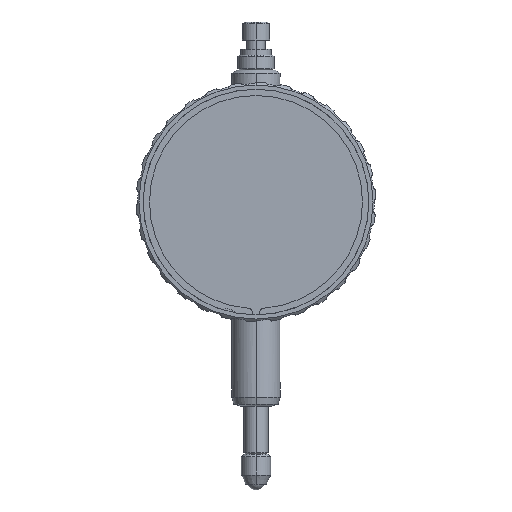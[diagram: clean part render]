
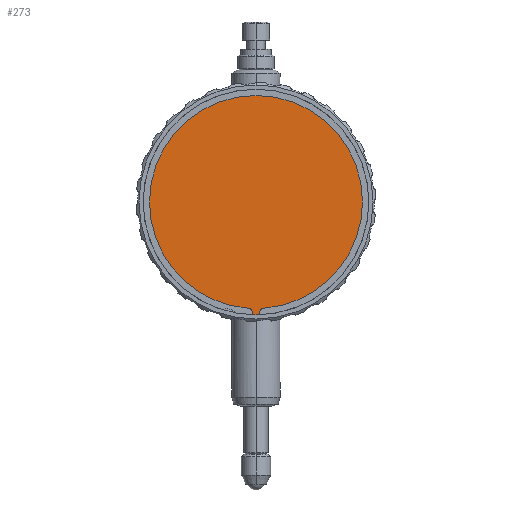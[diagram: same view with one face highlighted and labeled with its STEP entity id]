
A CAD part, front view. The second image highlights one B-rep face of the part: STEP entity #273.
In plain terms, the highlighted planar face has unit normal (0, -1, 0).
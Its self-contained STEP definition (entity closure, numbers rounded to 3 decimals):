
#273=ADVANCED_FACE('',(#762),#763,.F.);
#762=FACE_OUTER_BOUND('',#1296,.T.);
#763=PLANE('',#1297);
#1296=EDGE_LOOP('',(#3270,#3271,#3272,#3273,#3274,#3275,#3276,#3277,#3278));
#1297=AXIS2_PLACEMENT_3D('',#3279,#3280,#3281);
#3270=ORIENTED_EDGE('',*,*,#4136,.T.);
#3271=ORIENTED_EDGE('',*,*,#3550,.T.);
#3272=ORIENTED_EDGE('',*,*,#3542,.T.);
#3273=ORIENTED_EDGE('',*,*,#4137,.T.);
#3274=ORIENTED_EDGE('',*,*,#3547,.T.);
#3275=ORIENTED_EDGE('',*,*,#3538,.T.);
#3276=ORIENTED_EDGE('',*,*,#4138,.T.);
#3277=ORIENTED_EDGE('',*,*,#3630,.T.);
#3278=ORIENTED_EDGE('',*,*,#4097,.T.);
#3279=CARTESIAN_POINT('',(0.,-12.15,0.));
#3280=DIRECTION('',(0.,1.0,0.0));
#3281=DIRECTION('',(-1.0,0.,0.0));
#3538=EDGE_CURVE('',#4376,#4373,#4377,.T.);
#3542=EDGE_CURVE('',#4384,#4381,#4385,.T.);
#3547=EDGE_CURVE('',#4390,#4376,#4393,.T.);
#3550=EDGE_CURVE('',#4395,#4384,#4398,.T.);
#3630=EDGE_CURVE('',#4544,#4541,#4545,.T.);
#4097=EDGE_CURVE('',#4541,#5319,#5321,.T.);
#4136=EDGE_CURVE('',#5319,#4395,#5364,.T.);
#4137=EDGE_CURVE('',#4381,#4390,#5365,.T.);
#4138=EDGE_CURVE('',#4373,#4544,#5366,.T.);
#4373=VERTEX_POINT('',#5515);
#4376=VERTEX_POINT('',#5519);
#4377=CIRCLE('',#5520,0.75);
#4381=VERTEX_POINT('',#5525);
#4384=VERTEX_POINT('',#5529);
#4385=CIRCLE('',#5530,17.75);
#4390=VERTEX_POINT('',#5536);
#4393=CIRCLE('',#5540,17.75);
#4395=VERTEX_POINT('',#5542);
#4398=CIRCLE('',#5546,0.75);
#4541=VERTEX_POINT('',#5801);
#4544=VERTEX_POINT('',#5805);
#4545=CIRCLE('',#5806,18.8);
#5319=VERTEX_POINT('',#11354);
#5321=CIRCLE('',#11357,18.8);
#5364=CIRCLE('',#11468,0.75);
#5365=CIRCLE('',#11469,17.75);
#5366=CIRCLE('',#11470,0.75);
#5515=CARTESIAN_POINT('',(-0.6,-12.15,-18.451));
#5519=CARTESIAN_POINT('',(-1.295,-12.15,-17.703));
#5520=AXIS2_PLACEMENT_3D('',#11646,#11647,#11648);
#5525=CARTESIAN_POINT('',(17.75,-12.15,0.));
#5529=CARTESIAN_POINT('',(1.295,-12.15,-17.703));
#5530=AXIS2_PLACEMENT_3D('',#11654,#11655,#11656);
#5536=CARTESIAN_POINT('',(-17.75,-12.15,0.));
#5540=AXIS2_PLACEMENT_3D('',#11665,#11666,#11667);
#5542=CARTESIAN_POINT('',(0.6,-12.15,-18.451));
#5546=AXIS2_PLACEMENT_3D('',#11672,#11673,#11674);
#5801=CARTESIAN_POINT('',(0.,-12.15,-18.8));
#5805=CARTESIAN_POINT('',(-0.68,-12.15,-18.788));
#5806=AXIS2_PLACEMENT_3D('',#11812,#11813,#11814);
#11354=CARTESIAN_POINT('',(0.68,-12.15,-18.788));
#11357=AXIS2_PLACEMENT_3D('',#12227,#12228,#12229);
#11468=AXIS2_PLACEMENT_3D('',#12332,#12333,#12334);
#11469=AXIS2_PLACEMENT_3D('',#12335,#12336,#12337);
#11470=AXIS2_PLACEMENT_3D('',#12338,#12339,#12340);
#11646=CARTESIAN_POINT('',(-1.35,-12.15,-18.451));
#11647=DIRECTION('',(0.,1.0,0.0));
#11648=DIRECTION('',(-1.0,0.,0.0));
#11654=CARTESIAN_POINT('',(0.,-12.15,0.));
#11655=DIRECTION('',(0.,-1.0,0.0));
#11656=DIRECTION('',(-1.0,0.,0.0));
#11665=CARTESIAN_POINT('',(0.,-12.15,0.));
#11666=DIRECTION('',(0.,-1.0,0.0));
#11667=DIRECTION('',(-1.0,0.,0.0));
#11672=CARTESIAN_POINT('',(1.35,-12.15,-18.451));
#11673=DIRECTION('',(0.,1.0,0.0));
#11674=DIRECTION('',(-1.0,0.,0.0));
#11812=CARTESIAN_POINT('',(0.,-12.15,0.));
#11813=DIRECTION('',(0.,-1.0,0.0));
#11814=DIRECTION('',(-1.0,0.,0.0));
#12227=CARTESIAN_POINT('',(0.,-12.15,0.));
#12228=DIRECTION('',(0.,-1.0,0.0));
#12229=DIRECTION('',(-1.0,0.,0.0));
#12332=CARTESIAN_POINT('',(1.35,-12.15,-18.451));
#12333=DIRECTION('',(0.,1.0,0.0));
#12334=DIRECTION('',(-1.0,0.,0.0));
#12335=CARTESIAN_POINT('',(0.,-12.15,0.));
#12336=DIRECTION('',(0.,-1.0,0.0));
#12337=DIRECTION('',(-1.0,0.,0.0));
#12338=CARTESIAN_POINT('',(-1.35,-12.15,-18.451));
#12339=DIRECTION('',(0.,1.0,0.0));
#12340=DIRECTION('',(-1.0,0.,0.0));
